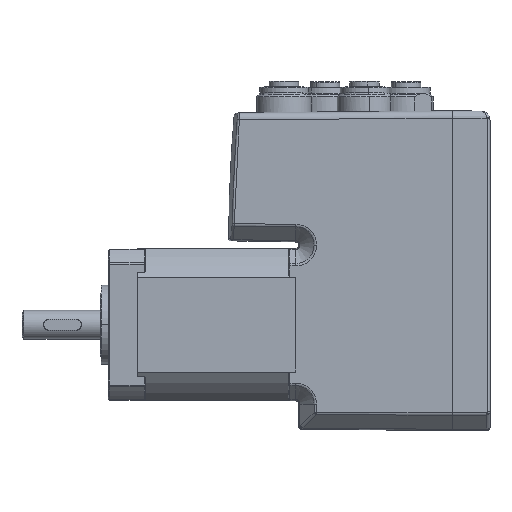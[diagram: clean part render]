
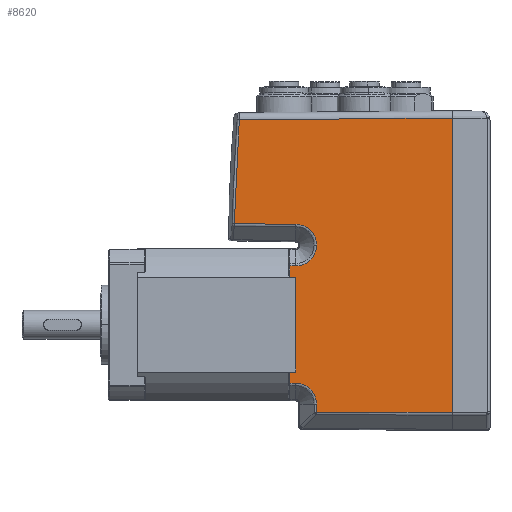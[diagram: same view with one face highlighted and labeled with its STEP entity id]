
A CAD part, top view. The second image highlights one B-rep face of the part: STEP entity #8620.
In plain terms, the highlighted planar face has unit normal (-0.009, 0, 1) as drawn and (0, -0.009, 1) by its records, which use the part's own axes.
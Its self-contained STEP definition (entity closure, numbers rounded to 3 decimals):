
#1730=DIRECTION('',(1.,-0.001,0.));
#1731=VECTOR('',#1730,3.08);
#1732=CARTESIAN_POINT('',(-16.28,-1.603,
21.136));
#1733=LINE('',#1732,#1731);
#1734=CARTESIAN_POINT('',(-16.285,-0.014,
21.15));
#1735=CARTESIAN_POINT('',(-16.278,0.735,
21.156));
#1736=CARTESIAN_POINT('',(-16.563,2.259,21.17));
#1737=CARTESIAN_POINT('',(-17.834,4.206,21.187));
#1738=CARTESIAN_POINT('',(-19.775,5.524,21.198));
#1739=CARTESIAN_POINT('',(-21.308,5.831,21.201));
#1740=CARTESIAN_POINT('',(-22.075,5.831,21.201));
#1742=CARTESIAN_POINT('',(-22.075,5.831,21.201));
#1743=CARTESIAN_POINT('',(-22.516,5.831,21.201));
#1744=CARTESIAN_POINT('',(-23.371,5.733,21.2));
#1745=CARTESIAN_POINT('',(-24.602,5.305,21.196));
#1746=CARTESIAN_POINT('',(-25.699,4.618,21.19));
#1747=CARTESIAN_POINT('',(-26.619,3.706,21.182));
#1748=CARTESIAN_POINT('',(-27.315,2.615,21.173));
#1749=CARTESIAN_POINT('',(-27.755,1.387,21.162));
#1750=CARTESIAN_POINT('',(-27.86,0.533,
21.155));
#1751=CARTESIAN_POINT('',(-27.864,0.092,
21.151));
#1753=DIRECTION('',(-0.009,-1.,-0.009));
#1754=VECTOR('',#1753,17.125);
#1755=CARTESIAN_POINT('',(-27.864,0.092,
21.151));
#1756=LINE('',#1755,#1754);
#1757=CARTESIAN_POINT('',(-28.013,-17.031,
21.001));
#1758=CARTESIAN_POINT('',(-37.647,-16.917,
21.002));
#1759=CARTESIAN_POINT('',(-47.264,-16.454,
21.006));
#1760=CARTESIAN_POINT('',(-56.864,-15.64,
21.014));
#1762=DIRECTION('',(-0.009,1.,0.009));
#1763=VECTOR('',#1762,59.144);
#1764=CARTESIAN_POINT('',(-56.864,-15.64,
21.014));
#1765=LINE('',#1764,#1763);
#1766=DIRECTION('',(1.,0.,0.));
#1767=VECTOR('',#1766,81.845);
#1768=CARTESIAN_POINT('',(-57.38,43.5,21.53));
#1769=LINE('',#1768,#1767);
#1770=DIRECTION('',(-0.004,-1.,-0.009));
#1771=VECTOR('',#1770,37.67);
#1772=CARTESIAN_POINT('',(24.465,43.5,21.53));
#1773=LINE('',#1772,#1771);
#1774=CARTESIAN_POINT('',(22.075,5.831,21.201));
#1775=CARTESIAN_POINT('',(21.308,5.831,21.201));
#1776=CARTESIAN_POINT('',(19.776,5.524,21.198));
#1777=CARTESIAN_POINT('',(17.834,4.206,21.187));
#1778=CARTESIAN_POINT('',(16.563,2.259,21.17));
#1779=CARTESIAN_POINT('',(16.278,0.735,21.156));
#1780=CARTESIAN_POINT('',(16.285,-0.014,
21.15));
#1782=DIRECTION('',(1.,0.001,0.));
#1783=VECTOR('',#1782,3.08);
#1784=CARTESIAN_POINT('',(13.2,-1.606,21.136));
#1785=LINE('',#1784,#1783);
#1786=DIRECTION('',(-1.,0.,0.));
#1787=VECTOR('',#1786,26.358);
#1788=CARTESIAN_POINT('',(13.179,0.,21.15));
#1789=LINE('',#1788,#1787);
#1795=CARTESIAN_POINT('',(-13.2,-1.606,
21.136));
#1819=CARTESIAN_POINT('',(-13.2,-1.606,
21.136));
#1820=CARTESIAN_POINT('',(-13.192,-1.072,
21.141));
#1821=CARTESIAN_POINT('',(-13.186,-0.534,
21.145));
#1822=CARTESIAN_POINT('',(-13.179,0.,21.15));
#1945=DIRECTION('',(0.003,-1.,-0.009));
#1946=VECTOR('',#1945,1.59);
#1947=CARTESIAN_POINT('',(-16.285,-0.014,
21.15));
#1948=LINE('',#1947,#1946);
#2341=DIRECTION('',(1.,0.,0.));
#2342=VECTOR('',#2341,2.255);
#2343=CARTESIAN_POINT('',(22.075,5.831,21.201));
#2344=LINE('',#2343,#2342);
#2537=CARTESIAN_POINT('',(13.2,-1.606,21.136));
#2539=CARTESIAN_POINT('',(13.179,0.,21.15));
#2540=CARTESIAN_POINT('',(13.186,-0.534,
21.145));
#2541=CARTESIAN_POINT('',(13.192,-1.072,21.141));
#2542=CARTESIAN_POINT('',(13.2,-1.606,21.136));
#2554=CARTESIAN_POINT('',(16.28,-1.603,21.136));
#2566=DIRECTION('',(0.003,1.,0.009));
#2567=VECTOR('',#2566,1.59);
#2568=CARTESIAN_POINT('',(16.28,-1.603,21.136));
#2569=LINE('',#2568,#2567);
#4826=CARTESIAN_POINT('',(-57.38,43.5,21.53));
#4827=VERTEX_POINT('',#4826);
#4911=CARTESIAN_POINT('',(-27.864,0.092,
21.151));
#4912=CARTESIAN_POINT('',(-28.013,-17.031,
21.001));
#4913=VERTEX_POINT('',#4911);
#4914=VERTEX_POINT('',#4912);
#4915=CARTESIAN_POINT('',(13.179,0.,21.15));
#4916=CARTESIAN_POINT('',(-13.179,0.,21.15));
#4917=VERTEX_POINT('',#4915);
#4918=VERTEX_POINT('',#4916);
#4919=VERTEX_POINT('',#1734);
#4920=VERTEX_POINT('',#1740);
#4921=VERTEX_POINT('',#1760);
#4922=CARTESIAN_POINT('',(24.465,43.5,21.53));
#4923=VERTEX_POINT('',#4922);
#4924=CARTESIAN_POINT('',(24.329,5.831,21.201));
#4925=VERTEX_POINT('',#4924);
#4926=CARTESIAN_POINT('',(22.075,5.831,21.201));
#4927=VERTEX_POINT('',#4926);
#4928=VERTEX_POINT('',#1780);
#5155=VERTEX_POINT('',#1795);
#5159=CARTESIAN_POINT('',(-16.28,-1.603,
21.136));
#5160=VERTEX_POINT('',#5159);
#5183=VERTEX_POINT('',#2554);
#5186=VERTEX_POINT('',#2537);
#8583=CARTESIAN_POINT('',(0.,0.,21.15));
#8584=DIRECTION('',(0.,-0.009,1.));
#8585=DIRECTION('',(0.,-1.,-0.009));
#8586=AXIS2_PLACEMENT_3D('',#8583,#8584,#8585);
#8587=PLANE('',#8586);
#8589=ORIENTED_EDGE('',*,*,#8588,.F.);
#8591=ORIENTED_EDGE('',*,*,#8590,.F.);
#8593=ORIENTED_EDGE('',*,*,#8592,.T.);
#8595=ORIENTED_EDGE('',*,*,#8594,.T.);
#8596=ORIENTED_EDGE('',*,*,#8561,.T.);
#8598=ORIENTED_EDGE('',*,*,#8597,.T.);
#8600=ORIENTED_EDGE('',*,*,#8599,.T.);
#8602=ORIENTED_EDGE('',*,*,#8601,.T.);
#8604=ORIENTED_EDGE('',*,*,#8603,.T.);
#8606=ORIENTED_EDGE('',*,*,#8605,.F.);
#8608=ORIENTED_EDGE('',*,*,#8607,.T.);
#8610=ORIENTED_EDGE('',*,*,#8609,.F.);
#8612=ORIENTED_EDGE('',*,*,#8611,.F.);
#8614=ORIENTED_EDGE('',*,*,#8613,.F.);
#8615=ORIENTED_EDGE('',*,*,#8049,.T.);
#8617=ORIENTED_EDGE('',*,*,#8616,.F.);
#8618=EDGE_LOOP('',(#8589,#8591,#8593,#8595,#8596,#8598,#8600,#8602,#8604,#8606,
#8608,#8610,#8612,#8614,#8615,#8617));
#8619=FACE_OUTER_BOUND('',#8618,.F.);
#1741=B_SPLINE_CURVE_WITH_KNOTS('',3,(#1734,#1735,#1736,#1737,#1738,#1739,
#1740),.UNSPECIFIED.,.F.,.F.,(4,1,1,1,4),(0.,0.246,
0.497,0.749,1.),.UNSPECIFIED.);
#1752=B_SPLINE_CURVE_WITH_KNOTS('',3,(#1742,#1743,#1744,#1745,#1746,#1747,#1748,
#1749,#1750,#1751),.UNSPECIFIED.,.F.,.F.,(4,1,1,1,1,1,1,4),(0.,
0.143,0.286,0.429,0.571,
0.714,0.857,1.),.UNSPECIFIED.);
#1761=B_SPLINE_CURVE_WITH_KNOTS('',3,(#1757,#1758,#1759,#1760),.UNSPECIFIED.,
.F.,.F.,(4,4),(0.,1.),.UNSPECIFIED.);
#1781=B_SPLINE_CURVE_WITH_KNOTS('',3,(#1774,#1775,#1776,#1777,#1778,#1779,
#1780),.UNSPECIFIED.,.F.,.F.,(4,1,1,1,4),(0.,0.251,
0.503,0.754,1.),.UNSPECIFIED.);
#1823=B_SPLINE_CURVE_WITH_KNOTS('',3,(#1819,#1820,#1821,#1822),.UNSPECIFIED.,
.F.,.F.,(4,4),(0.,1.),.UNSPECIFIED.);
#2543=B_SPLINE_CURVE_WITH_KNOTS('',3,(#2539,#2540,#2541,#2542),.UNSPECIFIED.,
.F.,.F.,(4,4),(0.,1.),.UNSPECIFIED.);
#8049=EDGE_CURVE('',#4917,#4918,#1789,.T.);
#8561=EDGE_CURVE('',#4913,#4914,#1756,.T.);
#8588=EDGE_CURVE('',#5160,#5155,#1733,.T.);
#8590=EDGE_CURVE('',#4919,#5160,#1948,.T.);
#8592=EDGE_CURVE('',#4919,#4920,#1741,.T.);
#8594=EDGE_CURVE('',#4920,#4913,#1752,.T.);
#8597=EDGE_CURVE('',#4914,#4921,#1761,.T.);
#8599=EDGE_CURVE('',#4921,#4827,#1765,.T.);
#8601=EDGE_CURVE('',#4827,#4923,#1769,.T.);
#8603=EDGE_CURVE('',#4923,#4925,#1773,.T.);
#8605=EDGE_CURVE('',#4927,#4925,#2344,.T.);
#8607=EDGE_CURVE('',#4927,#4928,#1781,.T.);
#8609=EDGE_CURVE('',#5183,#4928,#2569,.T.);
#8611=EDGE_CURVE('',#5186,#5183,#1785,.T.);
#8613=EDGE_CURVE('',#4917,#5186,#2543,.T.);
#8616=EDGE_CURVE('',#5155,#4918,#1823,.T.);
#8620=ADVANCED_FACE('',(#8619),#8587,.T.);
